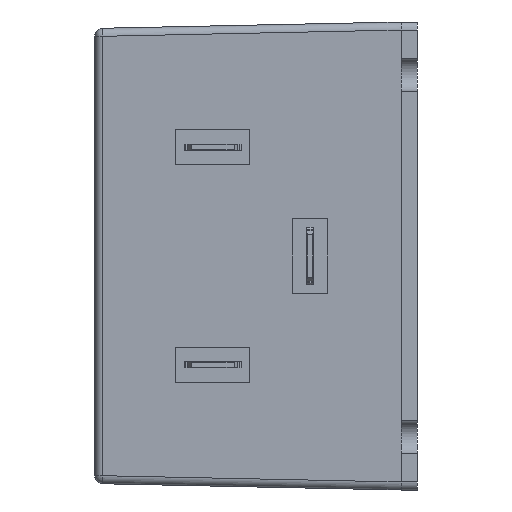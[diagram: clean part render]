
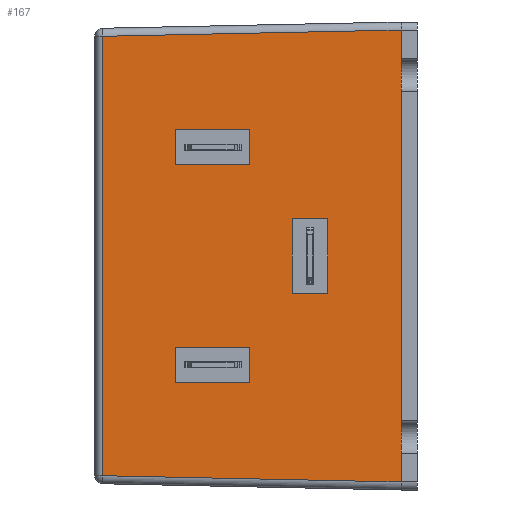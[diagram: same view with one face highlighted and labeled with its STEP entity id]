
A CAD part, left-side view. The second image highlights one B-rep face of the part: STEP entity #167.
In plain terms, the highlighted planar face has unit normal (-1, 0.021, 0).
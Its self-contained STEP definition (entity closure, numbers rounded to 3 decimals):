
#75 = ORIENTED_EDGE ( 'NONE', *, *, #94, .F. ) ;
#76 = VERTEX_POINT ( 'NONE', #1332 ) ;
#78 = ORIENTED_EDGE ( 'NONE', *, *, #79, .F. ) ;
#79 = EDGE_CURVE ( 'NONE', #76, #100, #1331, .T. ) ;
#91 = EDGE_CURVE ( 'NONE', #101, #93, #1376, .T. ) ;
#92 = ORIENTED_EDGE ( 'NONE', *, *, #91, .F. ) ;
#93 = VERTEX_POINT ( 'NONE', #1372 ) ;
#94 = EDGE_CURVE ( 'NONE', #93, #76, #1371, .T. ) ;
#95 = EDGE_CURVE ( 'NONE', #103, #102, #1367, .T. ) ;
#96 = ORIENTED_EDGE ( 'NONE', *, *, #97, .F. ) ;
#97 = EDGE_CURVE ( 'NONE', #107, #103, #1363, .T. ) ;
#98 = ORIENTED_EDGE ( 'NONE', *, *, #99, .F. ) ;
#99 = EDGE_CURVE ( 'NONE', #100, #101, #1423, .T. ) ;
#100 = VERTEX_POINT ( 'NONE', #1419 ) ;
#101 = VERTEX_POINT ( 'NONE', #1418 ) ;
#102 = VERTEX_POINT ( 'NONE', #1417 ) ;
#103 = VERTEX_POINT ( 'NONE', #1416 ) ;
#104 = ORIENTED_EDGE ( 'NONE', *, *, #173, .F. ) ;
#105 = EDGE_LOOP ( 'NONE', ( #98, #78, #75, #92 ) ) ;
#106 = EDGE_CURVE ( 'NONE', #111, #107, #1415, .T. ) ;
#107 = VERTEX_POINT ( 'NONE', #1411 ) ;
#108 = EDGE_CURVE ( 'NONE', #115, #135, #1410, .T. ) ;
#109 = ORIENTED_EDGE ( 'NONE', *, *, #106, .F. ) ;
#110 = ORIENTED_EDGE ( 'NONE', *, *, #108, .T. ) ;
#111 = VERTEX_POINT ( 'NONE', #1406 ) ;
#112 = EDGE_CURVE ( 'NONE', #119, #115, #1405, .T. ) ;
#113 = EDGE_LOOP ( 'NONE', ( #109, #104, #174, #96 ) ) ;
#114 = ORIENTED_EDGE ( 'NONE', *, *, #112, .T. ) ;
#115 = VERTEX_POINT ( 'NONE', #1401 ) ;
#116 = ORIENTED_EDGE ( 'NONE', *, *, #118, .T. ) ;
#117 = VERTEX_POINT ( 'NONE', #1400 ) ;
#118 = EDGE_CURVE ( 'NONE', #117, #119, #1399, .T. ) ;
#119 = VERTEX_POINT ( 'NONE', #1395 ) ;
#120 = EDGE_CURVE ( 'NONE', #135, #117, #1456, .T. ) ;
#121 = ORIENTED_EDGE ( 'NONE', *, *, #120, .T. ) ;
#122 = EDGE_LOOP ( 'NONE', ( #121, #116, #114, #110 ) ) ;
#123 = EDGE_CURVE ( 'NONE', #125, #129, #1452, .T. ) ;
#124 = EDGE_CURVE ( 'NONE', #130, #125, #1448, .T. ) ;
#125 = VERTEX_POINT ( 'NONE', #1444 ) ;
#126 = ORIENTED_EDGE ( 'NONE', *, *, #123, .T. ) ;
#127 = ORIENTED_EDGE ( 'NONE', *, *, #124, .T. ) ;
#128 = ORIENTED_EDGE ( 'NONE', *, *, #134, .T. ) ;
#129 = VERTEX_POINT ( 'NONE', #1443 ) ;
#130 = VERTEX_POINT ( 'NONE', #1442 ) ;
#131 = ORIENTED_EDGE ( 'NONE', *, *, #132, .T. ) ;
#132 = EDGE_CURVE ( 'NONE', #133, #130, #1441, .T. ) ;
#133 = VERTEX_POINT ( 'NONE', #1437 ) ;
#134 = EDGE_CURVE ( 'NONE', #129, #133, #1436, .T. ) ;
#135 = VERTEX_POINT ( 'NONE', #1432 ) ;
#167 = ADVANCED_FACE ( 'NONE', ( #1513, #1512, #1511, #1510 ), #1509, .T. ) ;
#170 = EDGE_LOOP ( 'NONE', ( #128, #131, #127, #126 ) ) ;
#173 = EDGE_CURVE ( 'NONE', #102, #111, #1503, .T. ) ;
#174 = ORIENTED_EDGE ( 'NONE', *, *, #95, .F. ) ;
#1330 = CARTESIAN_POINT ( 'NONE',  ( 0., 38., -12.55 ) ) ;
#1331 = LINE ( 'NONE', #1330, #1394 ) ;
#1332 = CARTESIAN_POINT ( 'NONE',  ( -0.403, 18.75, -12.55 ) ) ;
#1362 = CARTESIAN_POINT ( 'NONE',  ( -0.209, 28., 0. ) ) ;
#1363 = LINE ( 'NONE', #1362, #1425 ) ;
#1364 = DIRECTION ( 'NONE',  ( -0.021, -1., 0. ) ) ;
#1365 = VECTOR ( 'NONE', #1364, 1000. ) ;
#1366 = CARTESIAN_POINT ( 'NONE',  ( 0., 38., -43.95 ) ) ;
#1367 = LINE ( 'NONE', #1366, #1365 ) ;
#1368 = DIRECTION ( 'NONE',  ( 0., 0., 1. ) ) ;
#1369 = VECTOR ( 'NONE', #1368, 1000. ) ;
#1370 = CARTESIAN_POINT ( 'NONE',  ( -0.403, 18.75, 0. ) ) ;
#1371 = LINE ( 'NONE', #1370, #1369 ) ;
#1372 = CARTESIAN_POINT ( 'NONE',  ( -0.403, 18.75, -16.95 ) ) ;
#1373 = DIRECTION ( 'NONE',  ( -0.021, -1., 0. ) ) ;
#1374 = VECTOR ( 'NONE', #1373, 1000. ) ;
#1375 = CARTESIAN_POINT ( 'NONE',  ( 0., 38., -16.95 ) ) ;
#1376 = LINE ( 'NONE', #1375, #1374 ) ;
#1393 = DIRECTION ( 'NONE',  ( 0.021, 1., 0. ) ) ;
#1394 = VECTOR ( 'NONE', #1393, 1000. ) ;
#1395 = CARTESIAN_POINT ( 'NONE',  ( -0.796, 0., -56.296 ) ) ;
#1396 = DIRECTION ( 'NONE',  ( -0.021, -1., -0.021 ) ) ;
#1397 = VECTOR ( 'NONE', #1396, 1000. ) ;
#1398 = CARTESIAN_POINT ( 'NONE',  ( 0.024, 39.162, -55.476 ) ) ;
#1399 = LINE ( 'NONE', #1398, #1397 ) ;
#1400 = CARTESIAN_POINT ( 'NONE',  ( -0.021, 37.021, -55.521 ) ) ;
#1401 = CARTESIAN_POINT ( 'NONE',  ( -0.796, 0., -0.204 ) ) ;
#1402 = DIRECTION ( 'NONE',  ( 0., 0., 1. ) ) ;
#1403 = VECTOR ( 'NONE', #1402, 1000. ) ;
#1404 = CARTESIAN_POINT ( 'NONE',  ( -0.796, 0., -56.5 ) ) ;
#1405 = LINE ( 'NONE', #1404, #1403 ) ;
#1406 = CARTESIAN_POINT ( 'NONE',  ( -0.403, 18.75, -39.55 ) ) ;
#1407 = DIRECTION ( 'NONE',  ( 0.021, 1., -0.021 ) ) ;
#1408 = VECTOR ( 'NONE', #1407, 1000. ) ;
#1409 = CARTESIAN_POINT ( 'NONE',  ( 0., 37.979, -0.999 ) ) ;
#1410 = LINE ( 'NONE', #1409, #1408 ) ;
#1411 = CARTESIAN_POINT ( 'NONE',  ( -0.209, 28., -39.55 ) ) ;
#1412 = DIRECTION ( 'NONE',  ( 0.021, 1., 0. ) ) ;
#1413 = VECTOR ( 'NONE', #1412, 1000. ) ;
#1414 = CARTESIAN_POINT ( 'NONE',  ( 0., 38., -39.55 ) ) ;
#1415 = LINE ( 'NONE', #1414, #1413 ) ;
#1416 = CARTESIAN_POINT ( 'NONE',  ( -0.209, 28., -43.95 ) ) ;
#1417 = CARTESIAN_POINT ( 'NONE',  ( -0.403, 18.75, -43.95 ) ) ;
#1418 = CARTESIAN_POINT ( 'NONE',  ( -0.209, 28., -16.95 ) ) ;
#1419 = CARTESIAN_POINT ( 'NONE',  ( -0.209, 28., -12.55 ) ) ;
#1420 = DIRECTION ( 'NONE',  ( 0., 0., -1. ) ) ;
#1421 = VECTOR ( 'NONE', #1420, 1000. ) ;
#1422 = CARTESIAN_POINT ( 'NONE',  ( -0.209, 28., 0. ) ) ;
#1423 = LINE ( 'NONE', #1422, #1421 ) ;
#1424 = DIRECTION ( 'NONE',  ( 0., 0., -1. ) ) ;
#1425 = VECTOR ( 'NONE', #1424, 1000. ) ;
#1432 = CARTESIAN_POINT ( 'NONE',  ( -0.021, 37.021, -0.979 ) ) ;
#1433 = DIRECTION ( 'NONE',  ( 0., 0., 1. ) ) ;
#1434 = VECTOR ( 'NONE', #1433, 1000. ) ;
#1435 = CARTESIAN_POINT ( 'NONE',  ( -0.513, 13.5, 0. ) ) ;
#1436 = LINE ( 'NONE', #1435, #1434 ) ;
#1437 = CARTESIAN_POINT ( 'NONE',  ( -0.513, 13.5, -23.625 ) ) ;
#1438 = DIRECTION ( 'NONE',  ( -0.021, -1., 0. ) ) ;
#1439 = VECTOR ( 'NONE', #1438, 1000. ) ;
#1440 = CARTESIAN_POINT ( 'NONE',  ( 0., 38., -23.625 ) ) ;
#1441 = LINE ( 'NONE', #1440, #1439 ) ;
#1442 = CARTESIAN_POINT ( 'NONE',  ( -0.605, 9.1, -23.625 ) ) ;
#1443 = CARTESIAN_POINT ( 'NONE',  ( -0.513, 13.5, -32.875 ) ) ;
#1444 = CARTESIAN_POINT ( 'NONE',  ( -0.605, 9.1, -32.875 ) ) ;
#1445 = DIRECTION ( 'NONE',  ( 0., 0., -1. ) ) ;
#1446 = VECTOR ( 'NONE', #1445, 1000. ) ;
#1447 = CARTESIAN_POINT ( 'NONE',  ( -0.605, 9.1, 0. ) ) ;
#1448 = LINE ( 'NONE', #1447, #1446 ) ;
#1449 = DIRECTION ( 'NONE',  ( 0.021, 1., 0. ) ) ;
#1450 = VECTOR ( 'NONE', #1449, 1000. ) ;
#1451 = CARTESIAN_POINT ( 'NONE',  ( 0., 38., -32.875 ) ) ;
#1452 = LINE ( 'NONE', #1451, #1450 ) ;
#1453 = DIRECTION ( 'NONE',  ( 0., 0., -1. ) ) ;
#1454 = VECTOR ( 'NONE', #1453, 1000. ) ;
#1455 = CARTESIAN_POINT ( 'NONE',  ( -0.021, 37.021, 0. ) ) ;
#1456 = LINE ( 'NONE', #1455, #1454 ) ;
#1500 = DIRECTION ( 'NONE',  ( 0., 0., 1. ) ) ;
#1501 = VECTOR ( 'NONE', #1500, 1000. ) ;
#1502 = CARTESIAN_POINT ( 'NONE',  ( -0.403, 18.75, 0. ) ) ;
#1503 = LINE ( 'NONE', #1502, #1501 ) ;
#1505 = DIRECTION ( 'NONE',  ( -0.021, -1., 0. ) ) ;
#1506 = DIRECTION ( 'NONE',  ( -1., 0.021, 0. ) ) ;
#1507 = CARTESIAN_POINT ( 'NONE',  ( 0., 38., 0. ) ) ;
#1508 = AXIS2_PLACEMENT_3D ( 'NONE', #1507, #1506, #1505 ) ;
#1509 = PLANE ( 'NONE',  #1508 ) ;
#1510 = FACE_BOUND ( 'NONE', #105, .T. ) ;
#1511 = FACE_BOUND ( 'NONE', #113, .T. ) ;
#1512 = FACE_OUTER_BOUND ( 'NONE', #122, .T. ) ;
#1513 = FACE_BOUND ( 'NONE', #170, .T. ) ;
